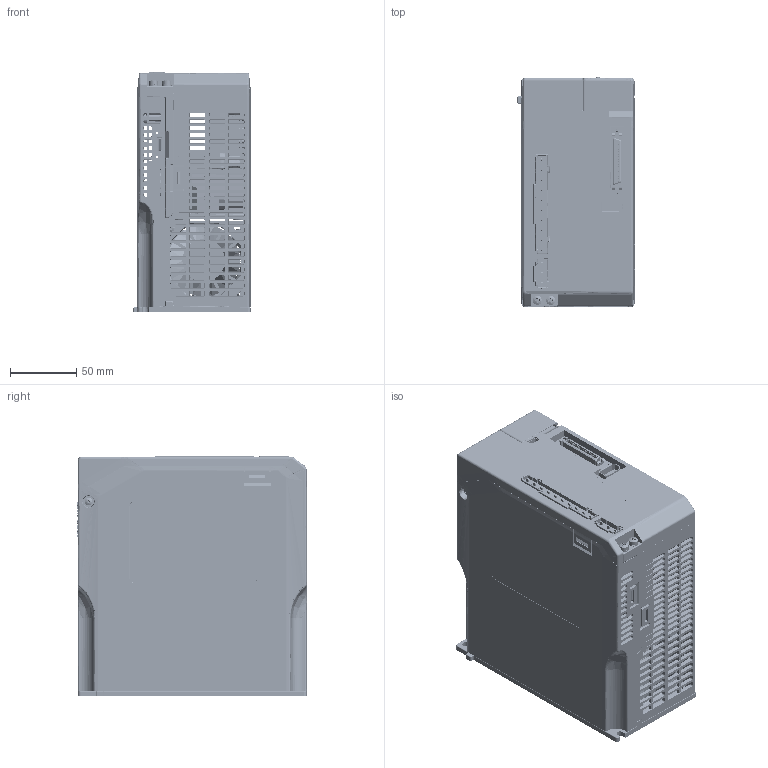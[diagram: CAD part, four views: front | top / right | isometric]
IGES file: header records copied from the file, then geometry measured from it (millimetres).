
Start section: SolidWorks IGES file using analytic representation for surfaces
Global section: file name: Z:\Products\Servo\08.2024\UNITRONICS\B5 & E5-S Drivers\400VAC ,Rated power:2kW~3KW CanOPEN\400VAC ,Rated power:2kW~3KW CanOPEN.IGS; native system: SolidWorks 2022; preprocessor: SolidWorks 2022; author: OfirZ; date: 240910.120136; units: millimetre
Bounding box: 88 x 172.3 x 181 mm (x, y, z)
Surface area: 652532.7 mm2 (no closed solid volume)
Topology: 0 solids, 0 shells, 14394 faces, 118840 edges, 118591 vertices
Faces by surface type: bspline 10158, revolution 4236
